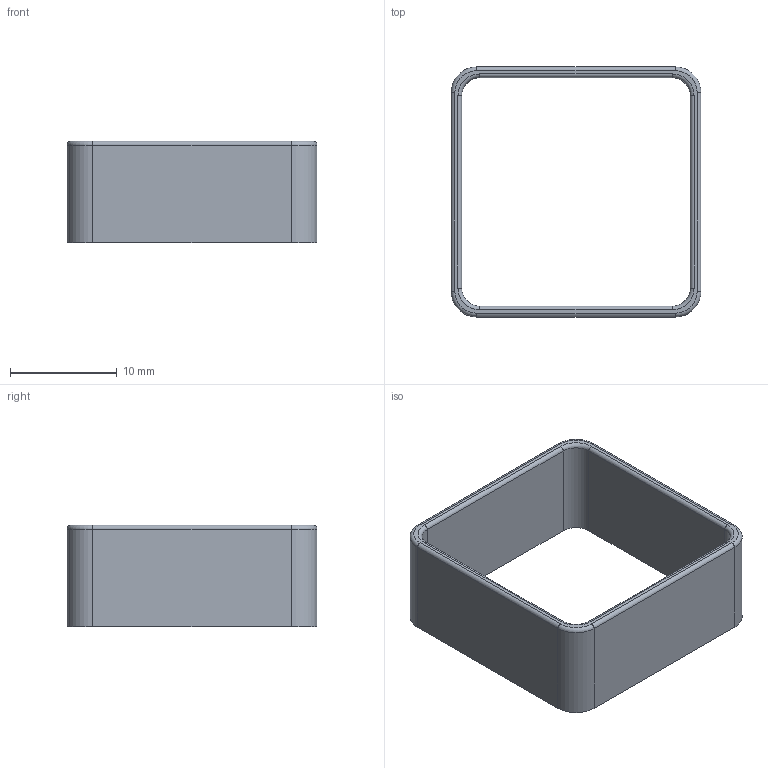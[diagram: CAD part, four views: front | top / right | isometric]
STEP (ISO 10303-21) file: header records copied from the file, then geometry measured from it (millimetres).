
FILE_DESCRIPTION(('Open CASCADE Model'),'2;1');
FILE_NAME('Open CASCADE Shape Model','2026-10-06T21:38:26',('Author'),( 'Open CASCADE'),'Open CASCADE STEP processor 7.9','Open CASCADE 7.9' ,'Unknown');
FILE_SCHEMA(('AUTOMOTIVE_DESIGN { 1 0 10303 214 1 1 1 1 }'));
Length unit declared in the file: millimetre
Products named in the file (1): Open CASCADE STEP translator 7.9 4
Bounding box: 23.4 x 23.4 x 9.5 mm (x, y, z)
Volume: 823.3 mm3; surface area: 1783.9 mm2
Topology: 1 solids, 1 shells, 34 faces, 80 edges, 48 vertices
Faces by surface type: cylinder 16, plane 10, torus 8
Entity records: 2020 total; most frequent: CARTESIAN_POINT 423, DIRECTION 300, ORIENTED_EDGE 160, PCURVE 160, DEFINITIONAL_REPRESENTATION 160, LINE 144, VECTOR 144, EDGE_CURVE 80
